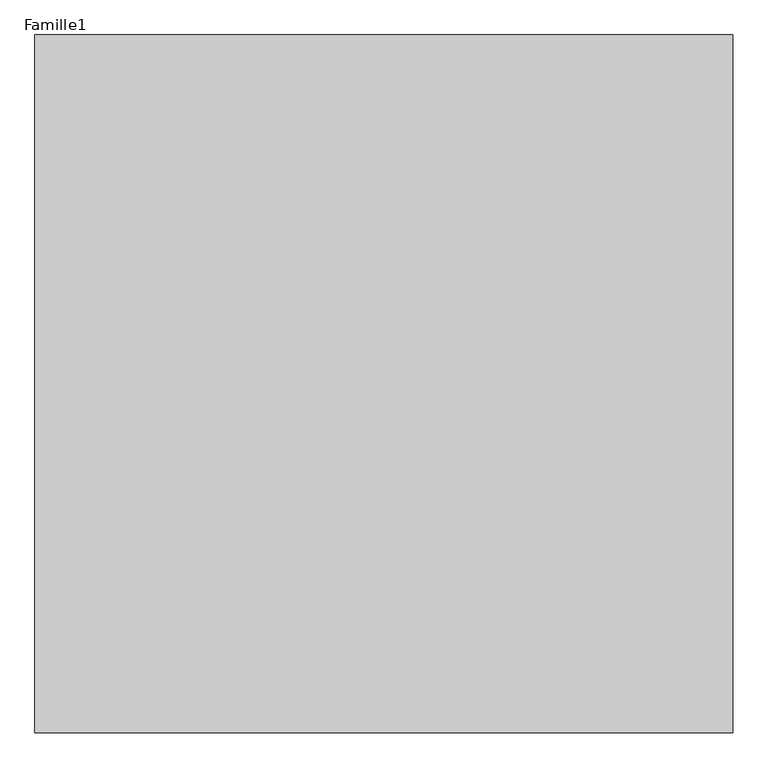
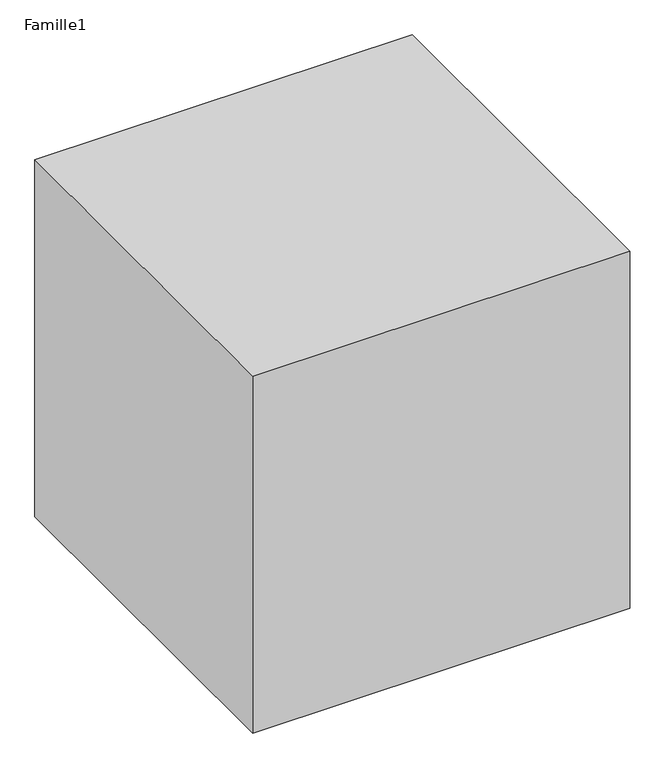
"""IFC4 building model written with IfcOpenShell, lengths in millimetres: proxy geometry, Famille1 : Lest béton."""

from ifc_helpers import new_model, si_unit, origin, origin_with_axes, place, context, project, spatial, polyline, outline, extrude, source, transform, mapped, element, save


def famille1_9b6e70c5(model_context):
    return source(origin(), model_context, "Body", "SweptSolid", [
        extrude(outline(polyline([(331.9106835, 405.2217717), (331.9106835, -594.7782283), (-668.0893165, -594.7782283), (-668.0893165, 405.2217717), (331.9106835, 405.2217717)])), origin_with_axes(), (0.0, 0.0, 1.0), 1000.0),
    ])


if __name__ == "__main__":
    model = new_model("IFC4")
    model_context = context("Model", 3, world=origin())
    ifc_project = project(units=[si_unit("LENGTHUNIT", "METRE", prefix="MILLI")], contexts=[model_context])
    site = spatial("IfcSite", under=ifc_project)
    building = spatial("IfcBuilding", under=site)
    placement = place(None, origin())
    famille1_shape = famille1_9b6e70c5(model_context)
    element("IfcBuildingElementProxy", 1, Name="Famille1 : Lest béton", ObjectType="Famille1 : Lest béton", at=placement, inside=building, context=model_context, shape_type="MappedRepresentation", body=[
        mapped(famille1_shape, transform((0.0, 0.0, 0.0), x_axis=(1.0, 0.0, 0.0), y_axis=(0.0, 1.0, 0.0), z_axis=(0.0, 0.0, 1.0))),
    ])
    save(model, "model.ifc")
